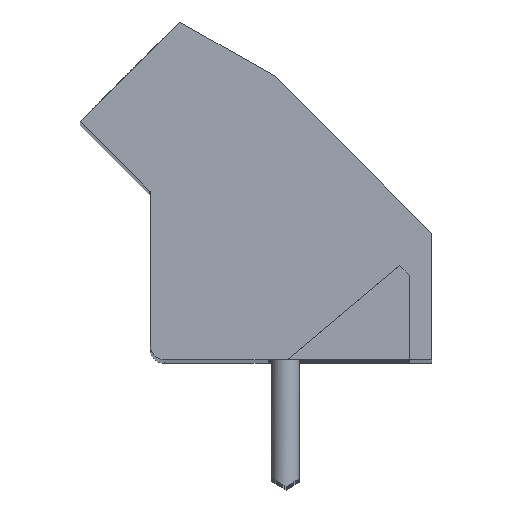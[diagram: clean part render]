
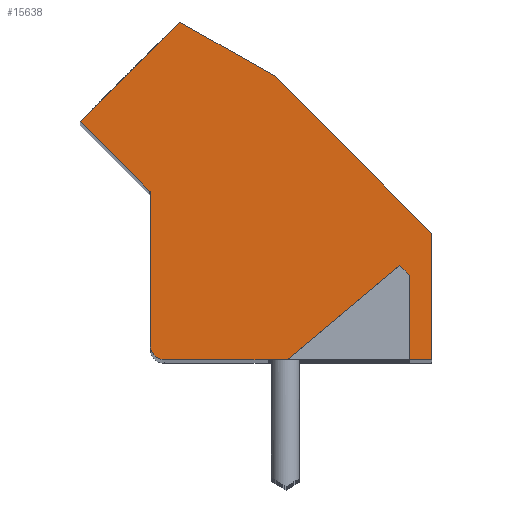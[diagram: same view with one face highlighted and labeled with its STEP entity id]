
A CAD part, top view. The second image highlights one B-rep face of the part: STEP entity #15638.
In plain terms, the highlighted planar face has unit normal (0, 0, 1).
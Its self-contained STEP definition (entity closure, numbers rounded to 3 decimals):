
#728 = ORIENTED_EDGE ( 'NONE', *, *, #10637, .F. ) ;
#1411 = LINE ( 'NONE', #18363, #13030 ) ;
#1703 = EDGE_CURVE ( 'NONE', #18126, #3835, #18882, .T. ) ;
#1919 = DIRECTION ( 'NONE',  ( 0., 0., -1. ) ) ;
#3188 = CARTESIAN_POINT ( 'NONE',  ( 0., 4.5, 0. ) ) ;
#3574 = DIRECTION ( 'NONE',  ( -0.766, -0.643, 0. ) ) ;
#3594 = CARTESIAN_POINT ( 'NONE',  ( -5.142, 0., 0. ) ) ;
#3835 = VERTEX_POINT ( 'NONE', #3594 ) ;
#4192 = CARTESIAN_POINT ( 'NONE',  ( 0., 4.5, 0. ) ) ;
#4415 = CARTESIAN_POINT ( 'NONE',  ( 0., 0., 0. ) ) ;
#4575 = CARTESIAN_POINT ( 'NONE',  ( -9.5, 0., 0. ) ) ;
#5057 = CARTESIAN_POINT ( 'NONE',  ( -7.993, -2.392, 0. ) ) ;
#5360 = VECTOR ( 'NONE', #3574, 1000. ) ;
#5392 = EDGE_CURVE ( 'NONE', #12589, #3835, #28400, .T. ) ;
#5487 = ORIENTED_EDGE ( 'NONE', *, *, #28413, .T. ) ;
#6243 = LINE ( 'NONE', #6864, #26561 ) ;
#6244 = VERTEX_POINT ( 'NONE', #25896 ) ;
#6864 = CARTESIAN_POINT ( 'NONE',  ( -10., 0., 0. ) ) ;
#6869 = CARTESIAN_POINT ( 'NONE',  ( -3.9, 6.1, 0. ) ) ;
#7544 = CARTESIAN_POINT ( 'NONE',  ( -0.8, 0., 0. ) ) ;
#7761 = VERTEX_POINT ( 'NONE', #7544 ) ;
#8248 = ORIENTED_EDGE ( 'NONE', *, *, #23342, .T. ) ;
#8295 = CARTESIAN_POINT ( 'NONE',  ( 0., 0., 0. ) ) ;
#9753 = ORIENTED_EDGE ( 'NONE', *, *, #19978, .F. ) ;
#9854 = CARTESIAN_POINT ( 'NONE',  ( -0.8, 3., 0. ) ) ;
#9957 = VECTOR ( 'NONE', #21263, 1000. ) ;
#10003 = VERTEX_POINT ( 'NONE', #8295 ) ;
#10113 = VECTOR ( 'NONE', #21328, 1000. ) ;
#10165 = AXIS2_PLACEMENT_3D ( 'NONE', #11042, #25545, #18323 ) ;
#10167 = FACE_OUTER_BOUND ( 'NONE', #12685, .T. ) ;
#10257 = VERTEX_POINT ( 'NONE', #9854 ) ;
#10637 = EDGE_CURVE ( 'NONE', #10257, #18126, #28033, .T. ) ;
#10953 = EDGE_CURVE ( 'NONE', #21774, #12589, #12902, .T. ) ;
#11042 = CARTESIAN_POINT ( 'NONE',  ( -9.5, 0.5, 0. ) ) ;
#11073 = CARTESIAN_POINT ( 'NONE',  ( -1.15, 3.35, 0. ) ) ;
#11956 = CARTESIAN_POINT ( 'NONE',  ( -10., 0., 0. ) ) ;
#12527 = DIRECTION ( 'NONE',  ( 1., 0., 0. ) ) ;
#12555 = CARTESIAN_POINT ( 'NONE',  ( -8.964, 12., 0. ) ) ;
#12589 = VERTEX_POINT ( 'NONE', #4575 ) ;
#12685 = EDGE_LOOP ( 'NONE', ( #25837, #22769, #8248, #23400, #15670, #31051, #728, #9753, #5487, #24634, #22661, #15147, #18557 ) ) ;
#12902 = CIRCLE ( 'NONE', #10165, 0.5 ) ;
#13030 = VECTOR ( 'NONE', #21012, 1000. ) ;
#13712 = CARTESIAN_POINT ( 'NONE',  ( -10.1, 5.923, 0. ) ) ;
#13761 = DIRECTION ( 'NONE',  ( 0., -1., 0. ) ) ;
#13966 = CARTESIAN_POINT ( 'NONE',  ( -10.029, 5.994, 0. ) ) ;
#15147 = ORIENTED_EDGE ( 'NONE', *, *, #30379, .T. ) ;
#15397 = VERTEX_POINT ( 'NONE', #29217 ) ;
#15638 = ADVANCED_FACE ( 'NONE', ( #10167 ), #20861, .T. ) ;
#15670 = ORIENTED_EDGE ( 'NONE', *, *, #5392, .T. ) ;
#16575 = VERTEX_POINT ( 'NONE', #30075 ) ;
#17093 = CIRCLE ( 'NONE', #24525, 0.1 ) ;
#17573 = VECTOR ( 'NONE', #12527, 1000. ) ;
#17635 = DIRECTION ( 'NONE',  ( -0.707, 0.707, 0. ) ) ;
#17739 = CARTESIAN_POINT ( 'NONE',  ( -10., 0.5, 0. ) ) ;
#17938 = EDGE_CURVE ( 'NONE', #30089, #25532, #29250, .T. ) ;
#18126 = VERTEX_POINT ( 'NONE', #11073 ) ;
#18212 = VECTOR ( 'NONE', #20011, 1000. ) ;
#18262 = EDGE_CURVE ( 'NONE', #15397, #26077, #1411, .T. ) ;
#18323 = DIRECTION ( 'NONE',  ( 1., 0., 0. ) ) ;
#18332 = LINE ( 'NONE', #26965, #17573 ) ;
#18363 = CARTESIAN_POINT ( 'NONE',  ( -12.5, 8.464, 0. ) ) ;
#18395 = EDGE_CURVE ( 'NONE', #10003, #30089, #24371, .T. ) ;
#18443 = VECTOR ( 'NONE', #22223, 1000. ) ;
#18557 = ORIENTED_EDGE ( 'NONE', *, *, #21982, .T. ) ;
#18882 = LINE ( 'NONE', #5057, #5360 ) ;
#19845 = LINE ( 'NONE', #28504, #10113 ) ;
#19978 = EDGE_CURVE ( 'NONE', #7761, #10257, #27915, .T. ) ;
#20011 = DIRECTION ( 'NONE',  ( -0.87, 0.493, 0. ) ) ;
#20419 = VECTOR ( 'NONE', #26271, 1000. ) ;
#20562 = DIRECTION ( 'NONE',  ( 0., 0., 1. ) ) ;
#20861 = PLANE ( 'NONE',  #25741 ) ;
#21012 = DIRECTION ( 'NONE',  ( 0.707, -0.707, 0. ) ) ;
#21263 = DIRECTION ( 'NONE',  ( -0.707, 0.707, 0. ) ) ;
#21292 = CARTESIAN_POINT ( 'NONE',  ( -5.589, 10.089, 0. ) ) ;
#21317 = VECTOR ( 'NONE', #23995, 1000. ) ;
#21328 = DIRECTION ( 'NONE',  ( -0.707, -0.707, 0. ) ) ;
#21774 = VERTEX_POINT ( 'NONE', #17739 ) ;
#21982 = EDGE_CURVE ( 'NONE', #6244, #15397, #19845, .T. ) ;
#22223 = DIRECTION ( 'NONE',  ( 0., 1., 0. ) ) ;
#22661 = ORIENTED_EDGE ( 'NONE', *, *, #17938, .T. ) ;
#22769 = ORIENTED_EDGE ( 'NONE', *, *, #30118, .T. ) ;
#23342 = EDGE_CURVE ( 'NONE', #16575, #21774, #6243, .T. ) ;
#23400 = ORIENTED_EDGE ( 'NONE', *, *, #10953, .T. ) ;
#23446 = DIRECTION ( 'NONE',  ( 1., 0., 0. ) ) ;
#23638 = VECTOR ( 'NONE', #17635, 1000. ) ;
#23995 = DIRECTION ( 'NONE',  ( 0., 1., 0. ) ) ;
#24371 = LINE ( 'NONE', #4415, #21317 ) ;
#24525 = AXIS2_PLACEMENT_3D ( 'NONE', #13712, #1919, #23446 ) ;
#24634 = ORIENTED_EDGE ( 'NONE', *, *, #18395, .T. ) ;
#25532 = VERTEX_POINT ( 'NONE', #21292 ) ;
#25545 = DIRECTION ( 'NONE',  ( 0., 0., 1. ) ) ;
#25741 = AXIS2_PLACEMENT_3D ( 'NONE', #30544, #20562, #25763 ) ;
#25763 = DIRECTION ( 'NONE',  ( 1., 0., 0. ) ) ;
#25837 = ORIENTED_EDGE ( 'NONE', *, *, #18262, .T. ) ;
#25896 = CARTESIAN_POINT ( 'NONE',  ( -8.964, 12., 0. ) ) ;
#26077 = VERTEX_POINT ( 'NONE', #13966 ) ;
#26271 = DIRECTION ( 'NONE',  ( 1., 0., 0. ) ) ;
#26561 = VECTOR ( 'NONE', #13761, 1000. ) ;
#26787 = CARTESIAN_POINT ( 'NONE',  ( -0.8, 0., 0. ) ) ;
#26965 = CARTESIAN_POINT ( 'NONE',  ( -10., 0., 0. ) ) ;
#27915 = LINE ( 'NONE', #26787, #18443 ) ;
#28033 = LINE ( 'NONE', #6869, #9957 ) ;
#28400 = LINE ( 'NONE', #11956, #20419 ) ;
#28413 = EDGE_CURVE ( 'NONE', #7761, #10003, #18332, .T. ) ;
#28504 = CARTESIAN_POINT ( 'NONE',  ( -12.5, 8.464, 0. ) ) ;
#29217 = CARTESIAN_POINT ( 'NONE',  ( -12.5, 8.464, 0. ) ) ;
#29250 = LINE ( 'NONE', #3188, #23638 ) ;
#30075 = CARTESIAN_POINT ( 'NONE',  ( -10., 5.923, 0. ) ) ;
#30089 = VERTEX_POINT ( 'NONE', #4192 ) ;
#30118 = EDGE_CURVE ( 'NONE', #26077, #16575, #17093, .T. ) ;
#30263 = LINE ( 'NONE', #12555, #18212 ) ;
#30379 = EDGE_CURVE ( 'NONE', #25532, #6244, #30263, .T. ) ;
#30544 = CARTESIAN_POINT ( 'NONE',  ( -10., 0., 0. ) ) ;
#31051 = ORIENTED_EDGE ( 'NONE', *, *, #1703, .F. ) ;
